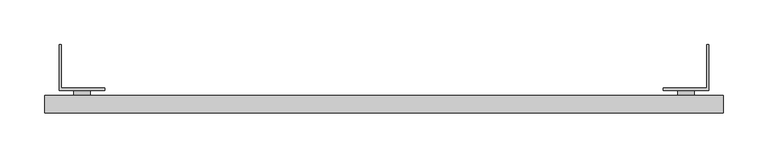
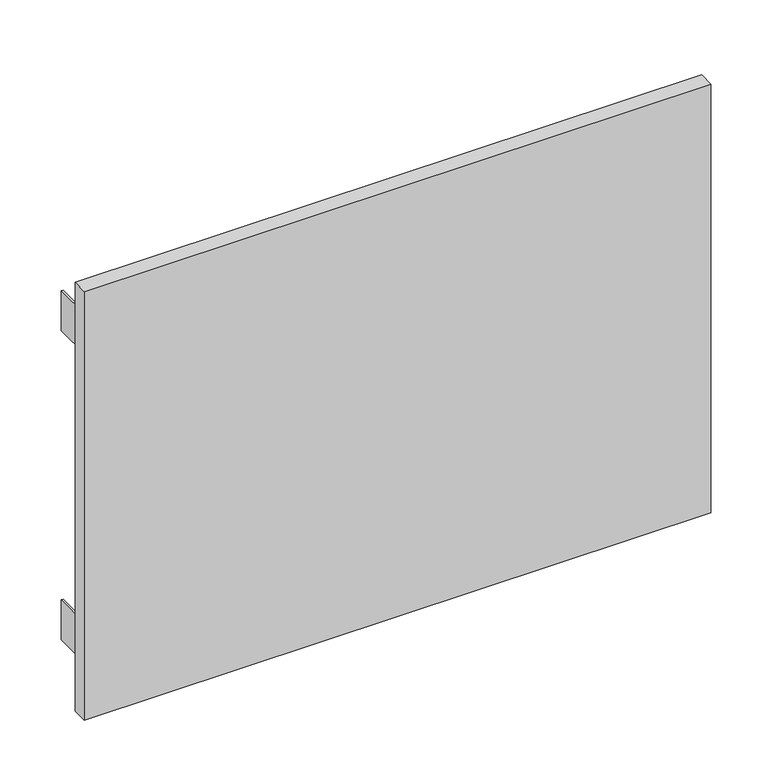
"""IFC4 building model written with IfcOpenShell, lengths in millimetres: furniture geometry, Geiger_GeigerOneCasegoods_KneespaceCoverPanel : Vertical Veneer 29.75Wx 0.75Dx 21.75H."""

from ifc_helpers import new_model, si_unit, point, frame, frame_2d, origin, origin_with_axes, place, context, project, spatial, polyline, circle_curve, trimmed, segment, composite_curve, outline, extrude, source, transform, mapped, element, save


def furniture_4879214a(model_context):
    return source(origin(), model_context, "Body", "SweptSolid", [
        extrude(outline(composite_curve([segment(trimmed(circle_curve(frame_2d((469.9984, 713.7880375)), 9.2650615), [point((469.9984, 704.522976))], [point((469.9984, 723.053099))], False, "CARTESIAN"), True, "CONTINUOUS"), segment(trimmed(circle_curve(frame_2d((469.9984, 713.7880375)), 9.2650615), [point((469.9984, 723.053099))], [point((469.9984, 704.522976))], False, "CARTESIAN"), True, "CONTINUOUS")], self_intersect=False)), frame((0.0, 0.0, 0.0), z_axis=(0.0, 1.0, 0.0), x_axis=(0.0, 0.0, 1.0)), (0.0, 0.0, 1.0), 6.0),
        extrude(outline(composite_curve([segment(trimmed(circle_curve(frame_2d((469.9984, 41.2015625)), 9.2650615), [point((469.9984, 31.936501))], [point((469.9984, 50.466624))], False, "CARTESIAN"), True, "CONTINUOUS"), segment(trimmed(circle_curve(frame_2d((469.9984, 41.2015625)), 9.2650615), [point((469.9984, 50.466624))], [point((469.9984, 31.936501))], False, "CARTESIAN"), True, "CONTINUOUS")], self_intersect=False)), frame((0.0, 0.0, 0.0), z_axis=(0.0, 1.0, 0.0), x_axis=(0.0, 0.0, 1.0)), (0.0, 0.0, 1.0), 6.0),
        extrude(outline(composite_curve([segment(trimmed(circle_curve(frame_2d((76.0, 713.7867475)), 9.2890452), [point((76.0, 704.4977022))], [point((76.0, 723.0757927))], False, "CARTESIAN"), True, "CONTINUOUS"), segment(trimmed(circle_curve(frame_2d((76.0, 713.7867475)), 9.2890452), [point((76.0, 723.0757927))], [point((76.0, 704.4977022))], False, "CARTESIAN"), True, "CONTINUOUS")], self_intersect=False)), frame((0.0, 0.0, 0.0), z_axis=(0.0, 1.0, 0.0), x_axis=(0.0, 0.0, 1.0)), (0.0, 0.0, 1.0), 6.0),
        extrude(outline(composite_curve([segment(trimmed(circle_curve(frame_2d((76.0, 41.2028525)), 9.2890452), [point((76.0, 31.9138073))], [point((76.0, 50.4918978))], False, "CARTESIAN"), True, "CONTINUOUS"), segment(trimmed(circle_curve(frame_2d((76.0, 41.2028525)), 9.2890452), [point((76.0, 50.4918978))], [point((76.0, 31.9138073))], False, "CARTESIAN"), True, "CONTINUOUS")], self_intersect=False)), frame((0.0, 0.0, 0.0), z_axis=(0.0, 1.0, 0.0), x_axis=(0.0, 0.0, 1.0)), (0.0, 0.0, 1.0), 6.0),
        extrude(outline(polyline([(18.38125, 56.8), (18.38125, 8.38125), (66.8, 8.38125), (66.8, 6.0), (16.0, 6.0), (16.0, 56.8), (18.38125, 56.8)])), frame((0.0, 0.0, 444.5984), z_axis=(0.0, 0.0, 1.0), x_axis=(1.0, 0.0, 0.0)), (0.0, 0.0, 1.0), 50.8),
        extrude(outline(polyline([(736.60835, 8.38125), (736.60835, 56.8), (738.9896, 56.8), (738.9896, 6.0), (688.1896, 6.0), (688.1896, 8.38125), (736.60835, 8.38125)])), frame((0.0, 0.0, 444.5984), z_axis=(0.0, 0.0, 1.0), x_axis=(1.0, 0.0, 0.0)), (0.0, 0.0, 1.0), 50.8),
        extrude(outline(polyline([(18.38125, 56.8), (18.38125, 8.38125), (66.8, 8.38125), (66.8, 6.0), (16.0, 6.0), (16.0, 56.8), (18.38125, 56.8)])), frame((0.0, 0.0, 50.6), z_axis=(0.0, 0.0, 1.0), x_axis=(1.0, 0.0, 0.0)), (0.0, 0.0, 1.0), 50.8),
        extrude(outline(polyline([(738.9896, 6.0), (688.1896, 6.0), (688.1896, 8.38125), (736.60835, 8.38125), (736.60835, 56.8), (738.9896, 56.8), (738.9896, 6.0)])), frame((0.0, 0.0, 50.6), z_axis=(0.0, 0.0, 1.0), x_axis=(1.0, 0.0, 0.0)), (0.0, 0.0, 1.0), 50.8),
        extrude(outline(polyline([(754.9896, 0.0), (754.9896, -19.05), (0.0, -19.05), (0.0, 0.0), (754.9896, 0.0)])), origin_with_axes(), (0.0, 0.0, 1.0), 545.9984),
    ])


if __name__ == "__main__":
    model = new_model("IFC4")
    model_context = context("Model", 3, world=origin())
    ifc_project = project(units=[si_unit("LENGTHUNIT", "METRE", prefix="MILLI")], contexts=[model_context])
    site = spatial("IfcSite", under=ifc_project)
    building = spatial("IfcBuilding", under=site)
    placement = place(None, origin())
    furniture_shape = furniture_4879214a(model_context)
    element("IfcFurniture", 1, ObjectType="Geiger_GeigerOneCasegoods_KneespaceCoverPanel : Vertical Veneer 29.75Wx 0.75Dx 21.75H", at=placement, inside=building, context=model_context, shape_type="MappedRepresentation", body=[
        mapped(furniture_shape, transform((0.0, 0.0, 0.0), x_axis=(1.0, 0.0, 0.0), y_axis=(0.0, 1.0, 0.0), z_axis=(0.0, 0.0, 1.0))),
    ])
    save(model, "model.ifc")
